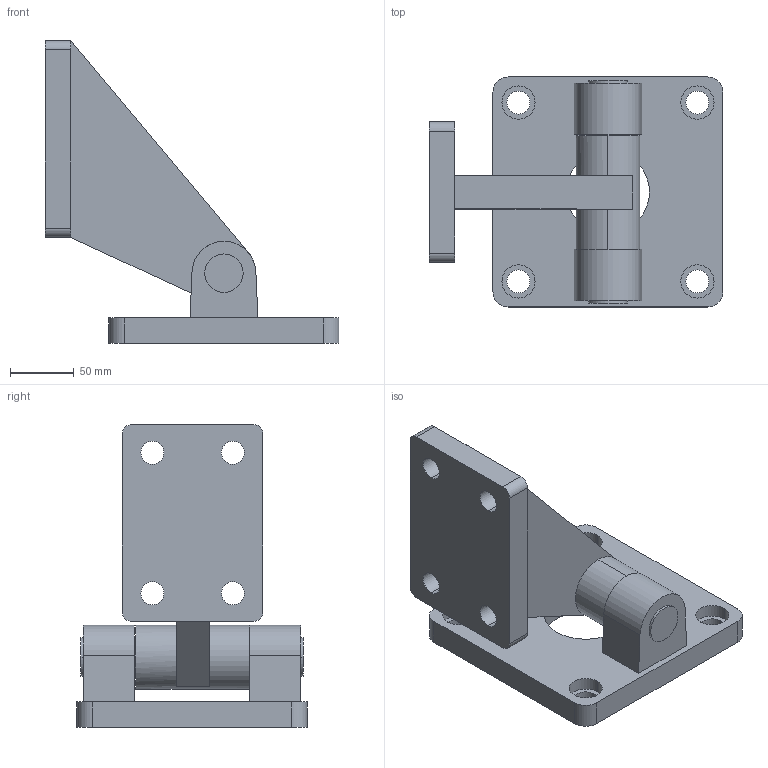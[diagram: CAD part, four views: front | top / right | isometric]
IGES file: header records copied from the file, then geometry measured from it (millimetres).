
Global section: file name: No Iges File Name specified; native system: AutoDesk Inventor R11.0; preprocessor: AutoDesk Inventor Iges Exporter R11.0; author: No Author specified; organization: No Organization specified; date: 20060712.122322; units: millimetre
Bounding box: 230 x 180 x 237 mm (x, y, z)
Volume: 1587284 mm3; surface area: 204290.8 mm2
Topology: 2 solids, 2 shells, 79 faces, 199 edges, 132 vertices
Faces by surface type: bspline 32, plane 29, cylinder 18
